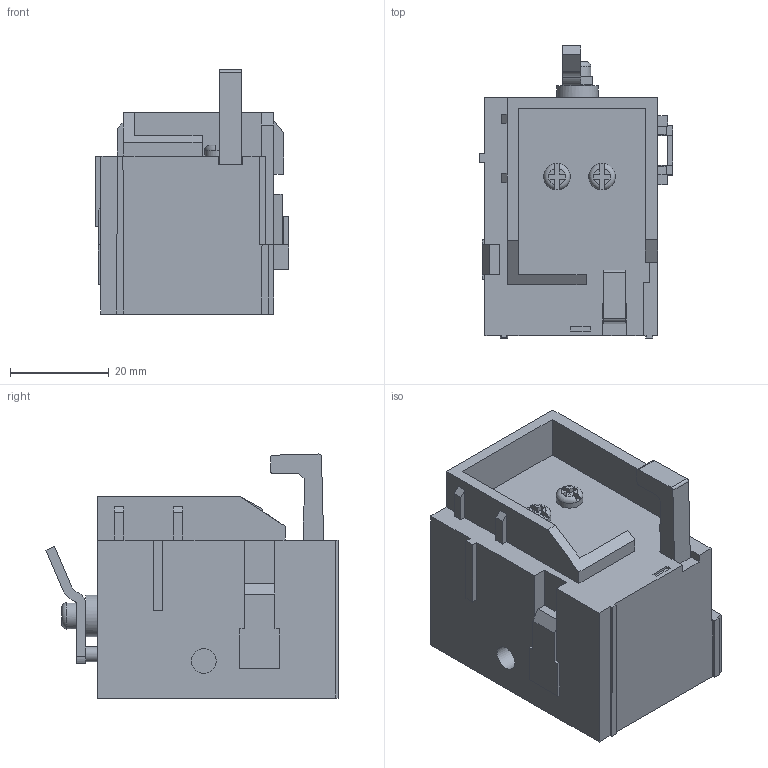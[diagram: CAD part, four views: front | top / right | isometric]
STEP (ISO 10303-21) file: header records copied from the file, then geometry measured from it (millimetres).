
FILE_DESCRIPTION(/* description */ (''),/* implementation_level */ '2;1');
FILE_NAME(/* name */ '800AC230V(右).stp',/* time_stamp */ '2018-10-30T15:32:30+08:00',/* author */ (''),/* organization */ (''),/* preprocessor_version */ 'ST-DEVELOPER v16',/* originating_system */ 'SIEMENS PLM Software NX 10.0',/* authorisation */ '');
FILE_SCHEMA (('AUTOMOTIVE_DESIGN { 1 0 10303 214 3 1 1 1 }'));
Length unit declared in the file: millimetre
Products named in the file (1): boj7F840C24e7vv
Bounding box: 39.3 x 59.2 x 49.45 mm (x, y, z)
Volume: 54327.6 mm3; surface area: 12865.5 mm2
Topology: 1 solids, 1 shells, 217 faces, 589 edges, 387 vertices
Faces by surface type: plane 189, cylinder 22, torus 6
Full cylindrical faces by diameter (mm): 3 x1, 5 x1, 5.4 x3, 8.4 x1
Entity records: 6905 total; most frequent: CARTESIAN_POINT 1458, ORIENTED_EDGE 1154, DIRECTION 1049, EDGE_CURVE 577, LINE 477, VECTOR 477, VERTEX_POINT 381, AXIS2_PLACEMENT_3D 286
